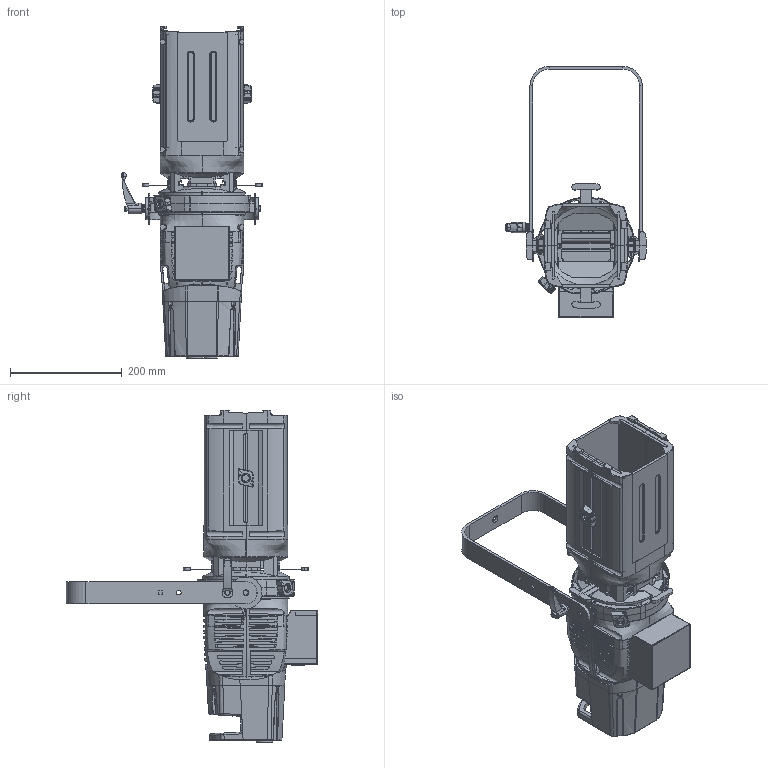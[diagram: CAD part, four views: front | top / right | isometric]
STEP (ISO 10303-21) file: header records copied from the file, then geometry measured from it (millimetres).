
FILE_DESCRIPTION (( 'STEP AP214' ), '1' );
FILE_NAME ('CAD212018 Tibo HE.STEP', '2021-07-07T06:57:58', ( '' ), ( '' ), 'SwSTEP 2.0', 'SolidWorks 2019', '' );
FILE_SCHEMA (( 'AUTOMOTIVE_DESIGN' ));
Length unit declared in the file: millimetre
Products named in the file (1): CAD212018 Tibo HE
Bounding box: 250.97 x 449.44 x 594.14 mm (x, y, z)
Volume: 1980930.9 mm3; surface area: 1006899.3 mm2
Topology: 19 solids, 23 shells, 5597 faces, 14412 edges, 8880 vertices
Faces by surface type: plane 2216, bspline 1260, cylinder 1087, cone 465, sphere 306, torus 263
Entity records: 277670 total; most frequent: CARTESIAN_POINT 92141, ORIENTED_EDGE 28696, DIRECTION 22064, EDGE_CURVE 14348, VERTEX_POINT 8874, AXIS2_PLACEMENT_3D 7836, LINE 6392, VECTOR 6392
